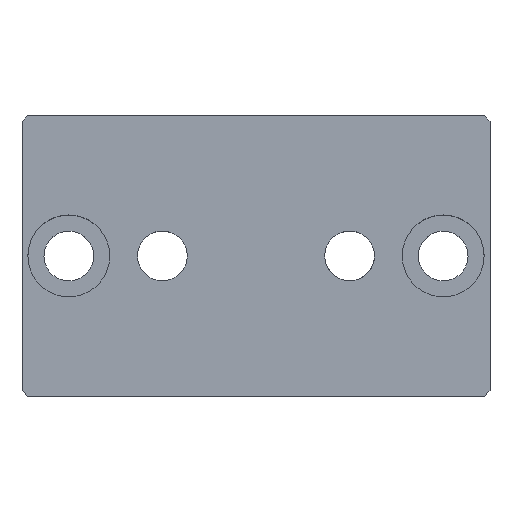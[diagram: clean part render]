
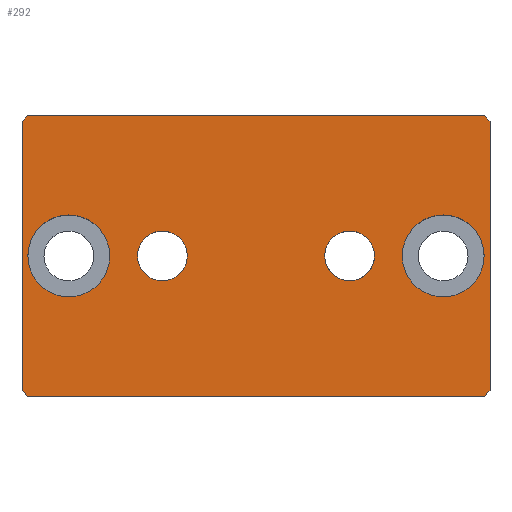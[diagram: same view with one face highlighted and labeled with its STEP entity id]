
A CAD part, top view. The second image highlights one B-rep face of the part: STEP entity #292.
In plain terms, the highlighted planar face has unit normal (0, 0, 1).
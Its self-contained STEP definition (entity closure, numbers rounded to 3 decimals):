
#70=CARTESIAN_POINT('Vertex',(20.25,0.,17.)) ;
#73=CARTESIAN_POINT('Axis2P3D Location',(16.,0.,17.)) ;
#77=CARTESIAN_POINT('Vertex',(11.75,0.,17.)) ;
#151=CARTESIAN_POINT('Axis2P3D Location',(16.,0.,17.)) ;
#163=CARTESIAN_POINT('Axis2P3D Location',(0.,0.,17.)) ;
#168=CARTESIAN_POINT('Line Origine',(40.,0.,17.)) ;
#172=CARTESIAN_POINT('Vertex',(40.,-23.,17.)) ;
#174=CARTESIAN_POINT('Vertex',(40.,23.,17.)) ;
#177=CARTESIAN_POINT('Line Origine',(39.5,23.5,17.)) ;
#181=CARTESIAN_POINT('Vertex',(39.,24.,17.)) ;
#184=CARTESIAN_POINT('Line Origine',(0.,24.,17.)) ;
#188=CARTESIAN_POINT('Vertex',(-39.,24.,17.)) ;
#191=CARTESIAN_POINT('Line Origine',(-39.5,23.5,17.)) ;
#195=CARTESIAN_POINT('Vertex',(-40.,23.,17.)) ;
#198=CARTESIAN_POINT('Line Origine',(-40.,0.,17.)) ;
#202=CARTESIAN_POINT('Vertex',(-40.,-23.,17.)) ;
#205=CARTESIAN_POINT('Line Origine',(-39.5,-23.5,17.)) ;
#209=CARTESIAN_POINT('Vertex',(-39.,-24.,17.)) ;
#212=CARTESIAN_POINT('Line Origine',(0.,-24.,17.)) ;
#216=CARTESIAN_POINT('Vertex',(39.,-24.,17.)) ;
#219=CARTESIAN_POINT('Line Origine',(39.5,-23.5,17.)) ;
#234=CARTESIAN_POINT('Axis2P3D Location',(-16.,0.,17.)) ;
#238=CARTESIAN_POINT('Vertex',(-20.25,0.,17.)) ;
#240=CARTESIAN_POINT('Vertex',(-11.75,0.,17.)) ;
#243=CARTESIAN_POINT('Axis2P3D Location',(-16.,0.,17.)) ;
#256=CARTESIAN_POINT('Axis2P3D Location',(32.,0.,17.)) ;
#260=CARTESIAN_POINT('Vertex',(39.,0.,17.)) ;
#262=CARTESIAN_POINT('Vertex',(25.,0.,17.)) ;
#265=CARTESIAN_POINT('Axis2P3D Location',(32.,0.,17.)) ;
#274=CARTESIAN_POINT('Axis2P3D Location',(-32.,0.,17.)) ;
#278=CARTESIAN_POINT('Vertex',(-25.,0.,17.)) ;
#280=CARTESIAN_POINT('Vertex',(-39.,0.,17.)) ;
#283=CARTESIAN_POINT('Axis2P3D Location',(-32.,0.,17.)) ;
#74=DIRECTION('Axis2P3D Direction',(0.,0.,1.)) ;
#152=DIRECTION('Axis2P3D Direction',(0.,0.,1.)) ;
#164=DIRECTION('Axis2P3D Direction',(0.,0.,1.)) ;
#165=DIRECTION('Axis2P3D XDirection',(1.,0.,0.)) ;
#169=DIRECTION('Vector Direction',(0.,-1.,0.)) ;
#178=DIRECTION('Vector Direction',(0.707,-0.707,0.)) ;
#185=DIRECTION('Vector Direction',(1.,0.,0.)) ;
#192=DIRECTION('Vector Direction',(-0.707,-0.707,0.)) ;
#199=DIRECTION('Vector Direction',(0.,1.,0.)) ;
#206=DIRECTION('Vector Direction',(-0.707,0.707,0.)) ;
#213=DIRECTION('Vector Direction',(-1.,0.,0.)) ;
#220=DIRECTION('Vector Direction',(0.707,0.707,0.)) ;
#235=DIRECTION('Axis2P3D Direction',(0.,0.,1.)) ;
#244=DIRECTION('Axis2P3D Direction',(0.,0.,1.)) ;
#257=DIRECTION('Axis2P3D Direction',(0.,0.,1.)) ;
#266=DIRECTION('Axis2P3D Direction',(0.,0.,1.)) ;
#275=DIRECTION('Axis2P3D Direction',(0.,0.,1.)) ;
#284=DIRECTION('Axis2P3D Direction',(0.,0.,1.)) ;
#75=AXIS2_PLACEMENT_3D('Circle Axis2P3D',#73,#74,$) ;
#153=AXIS2_PLACEMENT_3D('Circle Axis2P3D',#151,#152,$) ;
#166=AXIS2_PLACEMENT_3D('Plane Axis2P3D',#163,#164,#165) ;
#236=AXIS2_PLACEMENT_3D('Circle Axis2P3D',#234,#235,$) ;
#245=AXIS2_PLACEMENT_3D('Circle Axis2P3D',#243,#244,$) ;
#258=AXIS2_PLACEMENT_3D('Circle Axis2P3D',#256,#257,$) ;
#267=AXIS2_PLACEMENT_3D('Circle Axis2P3D',#265,#266,$) ;
#276=AXIS2_PLACEMENT_3D('Circle Axis2P3D',#274,#275,$) ;
#285=AXIS2_PLACEMENT_3D('Circle Axis2P3D',#283,#284,$) ;
#225=ORIENTED_EDGE('',*,*,#176,.T.) ;
#226=ORIENTED_EDGE('',*,*,#183,.F.) ;
#227=ORIENTED_EDGE('',*,*,#190,.T.) ;
#228=ORIENTED_EDGE('',*,*,#197,.F.) ;
#229=ORIENTED_EDGE('',*,*,#204,.T.) ;
#230=ORIENTED_EDGE('',*,*,#211,.F.) ;
#231=ORIENTED_EDGE('',*,*,#218,.T.) ;
#232=ORIENTED_EDGE('',*,*,#223,.F.) ;
#249=ORIENTED_EDGE('',*,*,#242,.F.) ;
#250=ORIENTED_EDGE('',*,*,#247,.F.) ;
#253=ORIENTED_EDGE('',*,*,#155,.F.) ;
#254=ORIENTED_EDGE('',*,*,#79,.F.) ;
#271=ORIENTED_EDGE('',*,*,#264,.F.) ;
#272=ORIENTED_EDGE('',*,*,#269,.F.) ;
#289=ORIENTED_EDGE('',*,*,#282,.F.) ;
#290=ORIENTED_EDGE('',*,*,#287,.F.) ;
#251=FACE_BOUND('',#248,.T.) ;
#255=FACE_BOUND('',#252,.T.) ;
#273=FACE_BOUND('',#270,.T.) ;
#291=FACE_BOUND('',#288,.T.) ;
#170=VECTOR('Line Direction',#169,1.) ;
#179=VECTOR('Line Direction',#178,1.) ;
#186=VECTOR('Line Direction',#185,1.) ;
#193=VECTOR('Line Direction',#192,1.) ;
#200=VECTOR('Line Direction',#199,1.) ;
#207=VECTOR('Line Direction',#206,1.) ;
#214=VECTOR('Line Direction',#213,1.) ;
#221=VECTOR('Line Direction',#220,1.) ;
#292=ADVANCED_FACE('\X2\96F64EF651E04F554F53\X0\',(#233,#251,#255,#273,#291),#167,.T.) ;
#76=CIRCLE('generated circle',#75,4.25) ;
#154=CIRCLE('generated circle',#153,4.25) ;
#237=CIRCLE('generated circle',#236,4.25) ;
#246=CIRCLE('generated circle',#245,4.25) ;
#259=CIRCLE('generated circle',#258,7.) ;
#268=CIRCLE('generated circle',#267,7.) ;
#277=CIRCLE('generated circle',#276,7.) ;
#286=CIRCLE('generated circle',#285,7.) ;
#79=EDGE_CURVE('',#71,#78,#76,.T.) ;
#155=EDGE_CURVE('',#78,#71,#154,.T.) ;
#176=EDGE_CURVE('',#173,#175,#171,.F.) ;
#183=EDGE_CURVE('',#182,#175,#180,.T.) ;
#190=EDGE_CURVE('',#182,#189,#187,.F.) ;
#197=EDGE_CURVE('',#196,#189,#194,.F.) ;
#204=EDGE_CURVE('',#196,#203,#201,.F.) ;
#211=EDGE_CURVE('',#210,#203,#208,.T.) ;
#218=EDGE_CURVE('',#210,#217,#215,.F.) ;
#223=EDGE_CURVE('',#173,#217,#222,.F.) ;
#242=EDGE_CURVE('',#239,#241,#237,.T.) ;
#247=EDGE_CURVE('',#241,#239,#246,.T.) ;
#264=EDGE_CURVE('',#261,#263,#259,.T.) ;
#269=EDGE_CURVE('',#263,#261,#268,.T.) ;
#282=EDGE_CURVE('',#279,#281,#277,.T.) ;
#287=EDGE_CURVE('',#281,#279,#286,.T.) ;
#224=EDGE_LOOP('',(#225,#226,#227,#228,#229,#230,#231,#232)) ;
#248=EDGE_LOOP('',(#249,#250)) ;
#252=EDGE_LOOP('',(#253,#254)) ;
#270=EDGE_LOOP('',(#271,#272)) ;
#288=EDGE_LOOP('',(#289,#290)) ;
#233=FACE_OUTER_BOUND('',#224,.T.) ;
#171=LINE('Line',#168,#170) ;
#180=LINE('Line',#177,#179) ;
#187=LINE('Line',#184,#186) ;
#194=LINE('Line',#191,#193) ;
#201=LINE('Line',#198,#200) ;
#208=LINE('Line',#205,#207) ;
#215=LINE('Line',#212,#214) ;
#222=LINE('Line',#219,#221) ;
#167=PLANE('Plane',#166) ;
#71=VERTEX_POINT('',#70) ;
#78=VERTEX_POINT('',#77) ;
#173=VERTEX_POINT('',#172) ;
#175=VERTEX_POINT('',#174) ;
#182=VERTEX_POINT('',#181) ;
#189=VERTEX_POINT('',#188) ;
#196=VERTEX_POINT('',#195) ;
#203=VERTEX_POINT('',#202) ;
#210=VERTEX_POINT('',#209) ;
#217=VERTEX_POINT('',#216) ;
#239=VERTEX_POINT('',#238) ;
#241=VERTEX_POINT('',#240) ;
#261=VERTEX_POINT('',#260) ;
#263=VERTEX_POINT('',#262) ;
#279=VERTEX_POINT('',#278) ;
#281=VERTEX_POINT('',#280) ;
